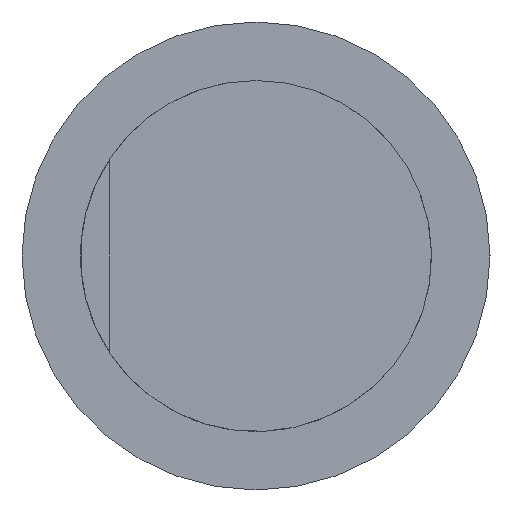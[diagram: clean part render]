
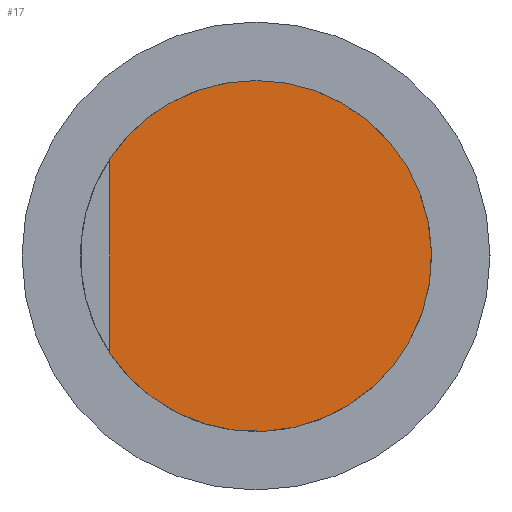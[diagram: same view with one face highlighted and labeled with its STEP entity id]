
A CAD part, left-side view. The second image highlights one B-rep face of the part: STEP entity #17.
In plain terms, the highlighted planar face has unit normal (-1, 0, 0).
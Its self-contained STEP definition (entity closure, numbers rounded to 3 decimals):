
#17 = ADVANCED_FACE('',(#18),#46,.F.);
#18 = FACE_BOUND('',#19,.F.);
#19 = EDGE_LOOP('',(#20,#31,#40));
#20 = ORIENTED_EDGE('',*,*,#21,.T.);
#21 = EDGE_CURVE('',#22,#24,#26,.T.);
#22 = VERTEX_POINT('',#23);
#23 = CARTESIAN_POINT('',(0.,5.,3.317));
#24 = VERTEX_POINT('',#25);
#25 = CARTESIAN_POINT('',(0.,0.,6.));
#26 = CIRCLE('',#27,6.);
#27 = AXIS2_PLACEMENT_3D('',#28,#29,#30);
#28 = CARTESIAN_POINT('',(0.,0.,0.));
#29 = DIRECTION('',(1.,0.,0.));
#30 = DIRECTION('',(-0.,0.,1.));
#31 = ORIENTED_EDGE('',*,*,#32,.T.);
#32 = EDGE_CURVE('',#24,#33,#35,.T.);
#33 = VERTEX_POINT('',#34);
#34 = CARTESIAN_POINT('',(0.,5.,-3.317));
#35 = CIRCLE('',#36,6.);
#36 = AXIS2_PLACEMENT_3D('',#37,#38,#39);
#37 = CARTESIAN_POINT('',(0.,0.,0.));
#38 = DIRECTION('',(1.,0.,0.));
#39 = DIRECTION('',(-0.,0.,1.));
#40 = ORIENTED_EDGE('',*,*,#41,.T.);
#41 = EDGE_CURVE('',#33,#22,#42,.T.);
#42 = LINE('',#43,#44);
#43 = CARTESIAN_POINT('',(0.,5.,-5.));
#44 = VECTOR('',#45,1.);
#45 = DIRECTION('',(0.,-0.,1.));
#46 = PLANE('',#47);
#47 = AXIS2_PLACEMENT_3D('',#48,#49,#50);
#48 = CARTESIAN_POINT('',(0.,0.,0.));
#49 = DIRECTION('',(1.,0.,0.));
#50 = DIRECTION('',(-0.,0.,1.));
